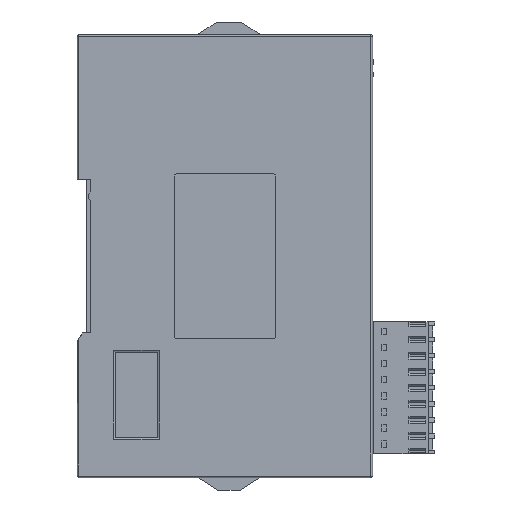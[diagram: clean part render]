
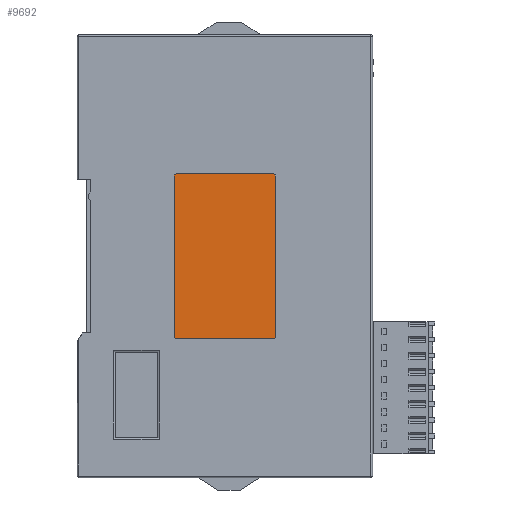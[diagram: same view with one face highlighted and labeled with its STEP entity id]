
A CAD part, left-side view. The second image highlights one B-rep face of the part: STEP entity #9692.
In plain terms, the highlighted planar face has unit normal (-1, 0, 0).
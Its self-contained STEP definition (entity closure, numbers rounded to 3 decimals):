
#9692=ADVANCED_FACE('',(#20670),#20672,.T.);
#20670=FACE_BOUND('',#20671,.T.);
#20671=EDGE_LOOP('',(#27302,#27303,#27304,#27305,#27306,#27307,#27308,#27309));
#20672=PLANE('',#20673);
#20673=AXIS2_PLACEMENT_3D('',#20674,#20675,#20676);
#20674=CARTESIAN_POINT('',(-345.703,-71.468,212.686));
#20675=DIRECTION('',(-1.,0.,0.));
#20676=DIRECTION('',(0.,0.,1.));
#27302=ORIENTED_EDGE('',*,*,#31572,.F.);
#27303=ORIENTED_EDGE('',*,*,#31569,.F.);
#27304=ORIENTED_EDGE('',*,*,#31568,.F.);
#27305=ORIENTED_EDGE('',*,*,#31564,.F.);
#27306=ORIENTED_EDGE('',*,*,#31579,.F.);
#27307=ORIENTED_EDGE('',*,*,#31577,.F.);
#27308=ORIENTED_EDGE('',*,*,#31576,.F.);
#27309=ORIENTED_EDGE('',*,*,#31573,.F.);
#31564=EDGE_CURVE('',#37518,#37519,#37520,.T.);
#31568=EDGE_CURVE('',#37519,#37523,#37525,.T.);
#31569=EDGE_CURVE('',#37523,#37526,#37527,.T.);
#31572=EDGE_CURVE('',#37526,#37529,#37531,.T.);
#31573=EDGE_CURVE('',#37529,#37532,#37533,.T.);
#31576=EDGE_CURVE('',#37532,#37535,#37537,.T.);
#31577=EDGE_CURVE('',#37535,#37538,#37539,.T.);
#31579=EDGE_CURVE('',#37538,#37518,#37541,.T.);
#37518=VERTEX_POINT('',#60117);
#37519=VERTEX_POINT('',#60118);
#37520=LINE('',#60119,#60120);
#37523=VERTEX_POINT('',#60128);
#37525=CIRCLE('',#60132,0.5);
#37526=VERTEX_POINT('',#60136);
#37527=LINE('',#60137,#60138);
#37529=VERTEX_POINT('',#60143);
#37531=CIRCLE('',#60147,0.5);
#37532=VERTEX_POINT('',#60151);
#37533=LINE('',#60152,#60153);
#37535=VERTEX_POINT('',#60158);
#37537=CIRCLE('',#60162,0.5);
#37538=VERTEX_POINT('',#60166);
#37539=LINE('',#60167,#60168);
#37541=CIRCLE('',#60173,0.5);
#60117=CARTESIAN_POINT('',(-345.703,-74.38,255.598));
#60118=CARTESIAN_POINT('',(-345.703,-97.38,255.598));
#60119=CARTESIAN_POINT('',(-345.703,-74.38,255.598));
#60120=VECTOR('',#60121,1.);
#60121=DIRECTION('',(0.,-1.,0.));
#60128=CARTESIAN_POINT('',(-345.703,-97.88,255.098));
#60132=AXIS2_PLACEMENT_3D('',#60133,#60134,#60135);
#60133=CARTESIAN_POINT('',(-345.703,-97.38,255.098));
#60134=DIRECTION('',(1.,0.,0.));
#60135=DIRECTION('',(0.,0.,1.));
#60136=CARTESIAN_POINT('',(-345.703,-97.88,217.098));
#60137=CARTESIAN_POINT('',(-345.703,-97.88,255.098));
#60138=VECTOR('',#60139,1.);
#60139=DIRECTION('',(0.,0.,-1.));
#60143=CARTESIAN_POINT('',(-345.703,-97.38,216.598));
#60147=AXIS2_PLACEMENT_3D('',#60148,#60149,#60150);
#60148=CARTESIAN_POINT('',(-345.703,-97.38,217.098));
#60149=DIRECTION('',(1.,0.,0.));
#60150=DIRECTION('',(0.,-1.,0.));
#60151=CARTESIAN_POINT('',(-345.703,-74.38,216.598));
#60152=CARTESIAN_POINT('',(-345.703,-97.38,216.598));
#60153=VECTOR('',#60154,1.);
#60154=DIRECTION('',(0.,1.,0.));
#60158=CARTESIAN_POINT('',(-345.703,-73.88,217.098));
#60162=AXIS2_PLACEMENT_3D('',#60163,#60164,#60165);
#60163=CARTESIAN_POINT('',(-345.703,-74.38,217.098));
#60164=DIRECTION('',(1.,0.,0.));
#60165=DIRECTION('',(0.,0.,-1.));
#60166=CARTESIAN_POINT('',(-345.703,-73.88,255.098));
#60167=CARTESIAN_POINT('',(-345.703,-73.88,217.098));
#60168=VECTOR('',#60169,1.);
#60169=DIRECTION('',(0.,0.,1.));
#60173=AXIS2_PLACEMENT_3D('',#60174,#60175,#60176);
#60174=CARTESIAN_POINT('',(-345.703,-74.38,255.098));
#60175=DIRECTION('',(1.,0.,0.));
#60176=DIRECTION('',(0.,1.,0.));
